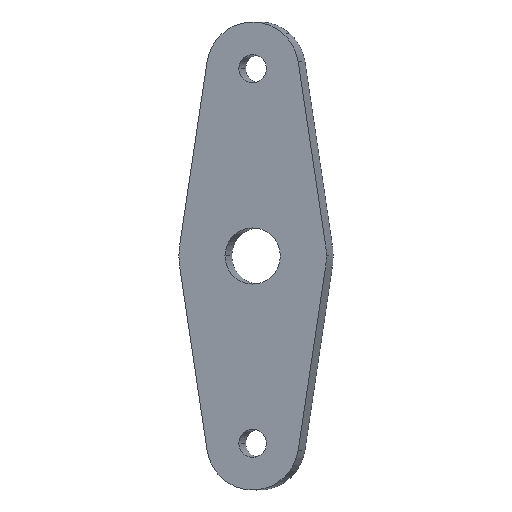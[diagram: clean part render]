
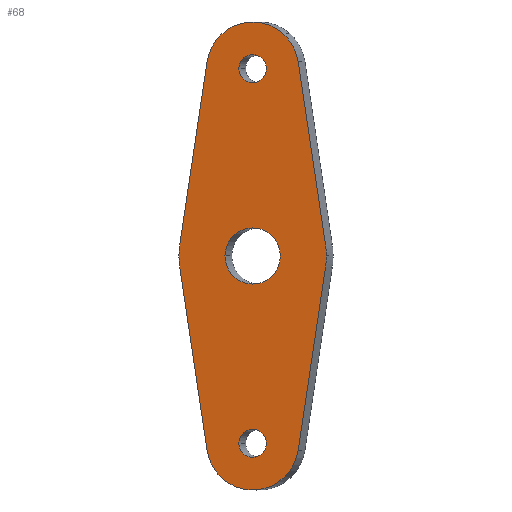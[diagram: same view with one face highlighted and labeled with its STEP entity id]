
A CAD part, front view. The second image highlights one B-rep face of the part: STEP entity #68.
In plain terms, the highlighted planar face has unit normal (-0.18, -0.984, 0).
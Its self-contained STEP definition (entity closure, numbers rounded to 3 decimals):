
#68=ADVANCED_FACE('',(#110,#111,#112,#113),#114,.T.);
#110=FACE_BOUND('',#157,.T.);
#111=FACE_BOUND('',#158,.T.);
#112=FACE_BOUND('',#159,.T.);
#113=FACE_OUTER_BOUND('',#160,.T.);
#114=PLANE('',#161);
#157=EDGE_LOOP('',(#300,#301));
#158=EDGE_LOOP('',(#302,#303));
#159=EDGE_LOOP('',(#304,#305));
#160=EDGE_LOOP('',(#306,#307,#308,#309,#310,#311,#312,#313,#314,#315,#316,#317));
#161=AXIS2_PLACEMENT_3D('',#318,#319,#320);
#300=ORIENTED_EDGE('',*,*,#361,.T.);
#301=ORIENTED_EDGE('',*,*,#365,.T.);
#302=ORIENTED_EDGE('',*,*,#357,.T.);
#303=ORIENTED_EDGE('',*,*,#367,.T.);
#304=ORIENTED_EDGE('',*,*,#353,.T.);
#305=ORIENTED_EDGE('',*,*,#369,.T.);
#306=ORIENTED_EDGE('',*,*,#351,.F.);
#307=ORIENTED_EDGE('',*,*,#388,.F.);
#308=ORIENTED_EDGE('',*,*,#386,.F.);
#309=ORIENTED_EDGE('',*,*,#339,.F.);
#310=ORIENTED_EDGE('',*,*,#383,.F.);
#311=ORIENTED_EDGE('',*,*,#373,.F.);
#312=ORIENTED_EDGE('',*,*,#347,.F.);
#313=ORIENTED_EDGE('',*,*,#389,.F.);
#314=ORIENTED_EDGE('',*,*,#384,.F.);
#315=ORIENTED_EDGE('',*,*,#343,.F.);
#316=ORIENTED_EDGE('',*,*,#376,.F.);
#317=ORIENTED_EDGE('',*,*,#370,.F.);
#318=CARTESIAN_POINT('',(99.549,12.567,39.5));
#319=DIRECTION('',(-0.18,-0.984,0.));
#320=DIRECTION('',(-0.984,0.18,0.));
#339=EDGE_CURVE('',#395,#391,#397,.T.);
#343=EDGE_CURVE('',#403,#399,#405,.T.);
#347=EDGE_CURVE('',#411,#407,#413,.T.);
#351=EDGE_CURVE('',#419,#415,#421,.T.);
#353=EDGE_CURVE('',#425,#422,#426,.T.);
#357=EDGE_CURVE('',#433,#430,#434,.T.);
#361=EDGE_CURVE('',#441,#438,#442,.T.);
#365=EDGE_CURVE('',#438,#441,#447,.T.);
#367=EDGE_CURVE('',#430,#433,#449,.T.);
#369=EDGE_CURVE('',#422,#425,#451,.T.);
#370=EDGE_CURVE('',#415,#452,#453,.T.);
#373=EDGE_CURVE('',#407,#457,#458,.T.);
#376=EDGE_CURVE('',#452,#403,#462,.T.);
#383=EDGE_CURVE('',#457,#395,#471,.T.);
#384=EDGE_CURVE('',#399,#472,#473,.T.);
#386=EDGE_CURVE('',#391,#475,#476,.T.);
#388=EDGE_CURVE('',#475,#419,#478,.T.);
#389=EDGE_CURVE('',#472,#411,#479,.T.);
#391=VERTEX_POINT('',#481);
#395=VERTEX_POINT('',#486);
#397=CIRCLE('',#489,2.5);
#399=VERTEX_POINT('',#491);
#403=VERTEX_POINT('',#496);
#405=CIRCLE('',#499,2.5);
#407=VERTEX_POINT('',#501);
#411=VERTEX_POINT('',#506);
#413=CIRCLE('',#509,4.0);
#415=VERTEX_POINT('',#511);
#419=VERTEX_POINT('',#516);
#421=CIRCLE('',#519,4.0);
#422=VERTEX_POINT('',#520);
#425=VERTEX_POINT('',#524);
#426=CIRCLE('',#525,0.75);
#430=VERTEX_POINT('',#530);
#433=VERTEX_POINT('',#534);
#434=CIRCLE('',#535,0.75);
#438=VERTEX_POINT('',#540);
#441=VERTEX_POINT('',#544);
#442=CIRCLE('',#545,1.5);
#447=CIRCLE('',#551,1.5);
#449=CIRCLE('',#553,0.75);
#451=CIRCLE('',#555,0.75);
#452=VERTEX_POINT('',#556);
#453=CIRCLE('',#557,4.0);
#457=VERTEX_POINT('',#562);
#458=CIRCLE('',#563,4.0);
#462=LINE('',#568,#569);
#471=LINE('',#582,#583);
#472=VERTEX_POINT('',#584);
#473=CIRCLE('',#585,2.5);
#475=VERTEX_POINT('',#588);
#476=CIRCLE('',#589,2.5);
#478=LINE('',#592,#593);
#479=LINE('',#594,#595);
#481=CARTESIAN_POINT('',(97.946,12.861,27.604));
#486=CARTESIAN_POINT('',(101.98,12.121,29.125));
#489=AXIS2_PLACEMENT_3D('',#601,#602,#603);
#491=CARTESIAN_POINT('',(101.152,12.273,51.396));
#496=CARTESIAN_POINT('',(97.118,13.013,49.875));
#499=AXIS2_PLACEMENT_3D('',#609,#610,#611);
#501=CARTESIAN_POINT('',(103.484,11.846,39.5));
#506=CARTESIAN_POINT('',(103.439,11.854,40.1));
#509=AXIS2_PLACEMENT_3D('',#617,#618,#619);
#511=CARTESIAN_POINT('',(95.615,13.288,39.5));
#516=CARTESIAN_POINT('',(95.659,13.28,38.9));
#519=AXIS2_PLACEMENT_3D('',#625,#626,#627);
#520=CARTESIAN_POINT('',(98.812,12.702,29.5));
#524=CARTESIAN_POINT('',(100.287,12.432,29.5));
#525=AXIS2_PLACEMENT_3D('',#629,#630,#631);
#530=CARTESIAN_POINT('',(98.812,12.702,49.5));
#534=CARTESIAN_POINT('',(100.287,12.432,49.5));
#535=AXIS2_PLACEMENT_3D('',#637,#638,#639);
#540=CARTESIAN_POINT('',(98.074,12.838,39.5));
#544=CARTESIAN_POINT('',(101.025,12.297,39.5));
#545=AXIS2_PLACEMENT_3D('',#645,#646,#647);
#551=AXIS2_PLACEMENT_3D('',#655,#656,#657);
#553=AXIS2_PLACEMENT_3D('',#661,#662,#663);
#555=AXIS2_PLACEMENT_3D('',#667,#668,#669);
#556=CARTESIAN_POINT('',(95.659,13.28,40.1));
#557=AXIS2_PLACEMENT_3D('',#670,#671,#672);
#562=CARTESIAN_POINT('',(103.439,11.854,38.9));
#563=AXIS2_PLACEMENT_3D('',#677,#678,#679);
#568=CARTESIAN_POINT('',(95.57,13.297,39.5));
#569=VECTOR('',#684,1.0);
#582=CARTESIAN_POINT('',(103.529,11.838,39.5));
#583=VECTOR('',#695,1.0);
#584=CARTESIAN_POINT('',(101.98,12.121,49.875));
#585=AXIS2_PLACEMENT_3D('',#696,#697,#698);
#588=CARTESIAN_POINT('',(97.118,13.013,29.125));
#589=AXIS2_PLACEMENT_3D('',#700,#701,#702);
#592=CARTESIAN_POINT('',(97.435,12.955,27.));
#593=VECTOR('',#704,1.0);
#594=CARTESIAN_POINT('',(101.663,12.18,52.));
#595=VECTOR('',#705,1.0);
#601=CARTESIAN_POINT('',(99.549,12.567,29.5));
#602=DIRECTION('',(0.18,0.984,0.));
#603=DIRECTION('',(0.641,-0.118,-0.758));
#609=CARTESIAN_POINT('',(99.549,12.567,49.5));
#610=DIRECTION('',(0.18,0.984,0.));
#611=DIRECTION('',(-0.641,0.118,0.758));
#617=CARTESIAN_POINT('',(99.549,12.567,39.5));
#618=DIRECTION('',(0.18,0.984,0.));
#619=DIRECTION('',(0.984,-0.18,0.));
#625=CARTESIAN_POINT('',(99.549,12.567,39.5));
#626=DIRECTION('',(0.18,0.984,0.));
#627=DIRECTION('',(-0.984,0.18,0.));
#629=CARTESIAN_POINT('',(99.549,12.567,29.5));
#630=DIRECTION('',(0.18,0.984,0.));
#631=DIRECTION('',(-0.984,0.18,0.));
#637=CARTESIAN_POINT('',(99.549,12.567,49.5));
#638=DIRECTION('',(0.18,0.984,0.));
#639=DIRECTION('',(-0.984,0.18,0.));
#645=CARTESIAN_POINT('',(99.549,12.567,39.5));
#646=DIRECTION('',(0.18,0.984,0.));
#647=DIRECTION('',(-0.984,0.18,0.));
#655=CARTESIAN_POINT('',(99.549,12.567,39.5));
#656=DIRECTION('',(0.18,0.984,0.));
#657=DIRECTION('',(-0.984,0.18,0.));
#661=CARTESIAN_POINT('',(99.549,12.567,49.5));
#662=DIRECTION('',(0.18,0.984,0.));
#663=DIRECTION('',(-0.984,0.18,0.));
#667=CARTESIAN_POINT('',(99.549,12.567,29.5));
#668=DIRECTION('',(0.18,0.984,0.));
#669=DIRECTION('',(-0.984,0.18,0.));
#670=CARTESIAN_POINT('',(99.549,12.567,39.5));
#671=DIRECTION('',(0.18,0.984,0.));
#672=DIRECTION('',(-0.984,0.18,0.));
#677=CARTESIAN_POINT('',(99.549,12.567,39.5));
#678=DIRECTION('',(0.18,0.984,0.));
#679=DIRECTION('',(0.984,-0.18,0.));
#684=DIRECTION('',(0.148,-0.027,0.989));
#695=DIRECTION('',(-0.148,0.027,-0.989));
#696=CARTESIAN_POINT('',(99.549,12.567,49.5));
#697=DIRECTION('',(0.18,0.984,0.));
#698=DIRECTION('',(-0.641,0.118,0.758));
#700=CARTESIAN_POINT('',(99.549,12.567,29.5));
#701=DIRECTION('',(0.18,0.984,0.));
#702=DIRECTION('',(0.641,-0.118,-0.758));
#704=DIRECTION('',(-0.148,0.027,0.989));
#705=DIRECTION('',(0.148,-0.027,-0.989));
